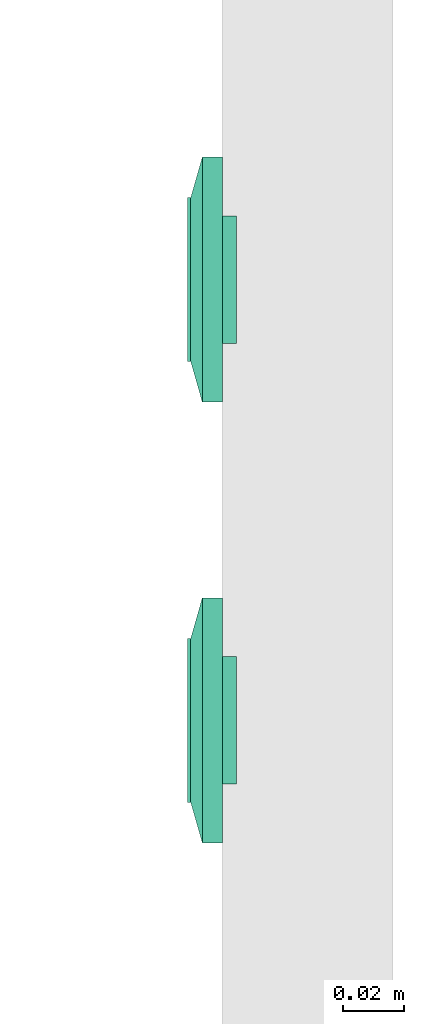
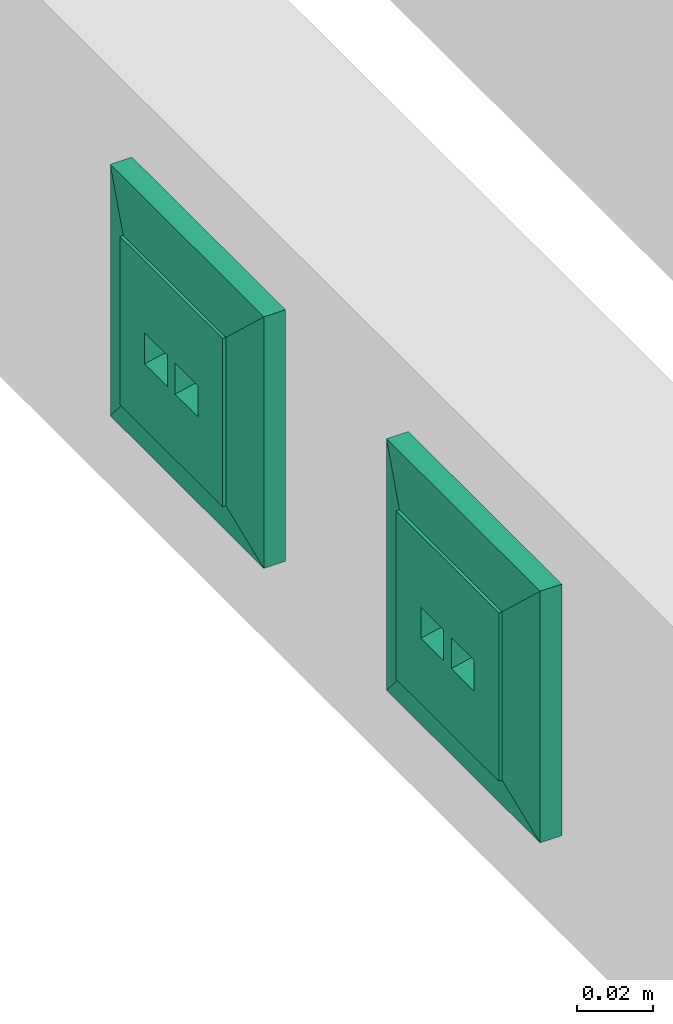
# One storey, part 88 of 166: 2 flow terminals.
"""IFC2X3 building model written with IfcOpenShell, lengths in metres."""

from ifc_helpers import new_model, entity, si_unit, converted_unit, derived_unit, direction, frame, origin, place, context, subcontext, project, spatial, faceted_brep, source, transform, mapped, type_object, type_shapes, element, save


model = new_model("IFC2X3")

# Units and contexts
model_context = context("Model", 3, precision=1e-05, world=origin(), true_north=direction((6.12303176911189e-17, 1.0)))
body_context = subcontext(model_context, "Body", "Model", "MODEL_VIEW")
ifc_project = project(units=[si_unit("LENGTHUNIT", "METRE"), si_unit("AREAUNIT", "SQUARE_METRE"), si_unit("VOLUMEUNIT", "CUBIC_METRE"), converted_unit("PLANEANGLEUNIT", "DEGREE", entity("IfcRatioMeasure", 0.0174532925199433), si_unit("PLANEANGLEUNIT", "RADIAN"), dimensions=[0, 0, 0, 0, 0, 0, 0]), si_unit("MASSUNIT", "GRAM", prefix="KILO"), derived_unit("MASSDENSITYUNIT", [(si_unit("MASSUNIT", "GRAM", prefix="KILO"), 1), (si_unit("LENGTHUNIT", "METRE"), -3)]), si_unit("TIMEUNIT", "SECOND"), si_unit("FREQUENCYUNIT", "HERTZ"), si_unit("THERMODYNAMICTEMPERATUREUNIT", "DEGREE_CELSIUS"), derived_unit("THERMALTRANSMITTANCEUNIT", [(si_unit("MASSUNIT", "GRAM", prefix="KILO"), 1), (si_unit("THERMODYNAMICTEMPERATUREUNIT", "KELVIN"), -1), (si_unit("TIMEUNIT", "SECOND"), -3)]), derived_unit("VOLUMETRICFLOWRATEUNIT", [(si_unit("LENGTHUNIT", "METRE"), 3), (si_unit("TIMEUNIT", "SECOND"), -1)]), si_unit("ELECTRICCURRENTUNIT", "AMPERE"), si_unit("ELECTRICVOLTAGEUNIT", "VOLT"), si_unit("POWERUNIT", "WATT"), si_unit("FORCEUNIT", "NEWTON"), si_unit("ILLUMINANCEUNIT", "LUX"), si_unit("LUMINOUSFLUXUNIT", "LUMEN"), si_unit("LUMINOUSINTENSITYUNIT", "CANDELA"), derived_unit("USERDEFINED", [(si_unit("MASSUNIT", "GRAM", prefix="KILO"), -1), (si_unit("LENGTHUNIT", "METRE"), -2), (si_unit("TIMEUNIT", "SECOND"), 3), (si_unit("LUMINOUSFLUXUNIT", "LUMEN"), 1)]), derived_unit("LINEARVELOCITYUNIT", [(si_unit("LENGTHUNIT", "METRE"), 1), (si_unit("TIMEUNIT", "SECOND"), -1)]), si_unit("PRESSUREUNIT", "PASCAL"), derived_unit("USERDEFINED", [(si_unit("LENGTHUNIT", "METRE"), -2), (si_unit("MASSUNIT", "GRAM", prefix="KILO"), 1), (si_unit("TIMEUNIT", "SECOND"), -2)])], contexts=[model_context])

# Site, building, storey
site_placement = place(None, origin())
site = spatial("IfcSite", under=ifc_project, at=site_placement, Name="Default", CompositionType="ELEMENT")
building_placement = place(site_placement, origin())
building = spatial("IfcBuilding", under=site, at=building_placement, CompositionType="ELEMENT")
storey_placement = place(building_placement, frame((0.0, 0.0, 4.27)))
storey = spatial("IfcBuildingStorey", under=building, at=storey_placement, Name="01", CompositionType="ELEMENT", Elevation=4.27)

# Flow terminals
electric_appliance_type = type_object("IfcElectricApplianceType", Name="RJ45 IP20", PredefinedType="NOTDEFINED")
shared_shape = source(origin(), body_context, "Body", "Brep", [
    faceted_brep([(0.00200000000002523, 0.0, 0.00799999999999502), (0.00400000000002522, 0.0, 0.00799999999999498), (0.00500000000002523, 0.00199999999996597, 0.00799999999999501), (0.0110000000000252, 0.00199999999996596, 0.00799999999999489), (0.0120000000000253, 0.0, 0.00799999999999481), (0.0140000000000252, 0.0, 0.00799999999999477), (0.0140000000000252, 0.00399999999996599, 0.00799999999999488), (0.00200000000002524, 0.00399999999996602, 0.00799999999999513), (0.00200000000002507, 0.0, 0.0), (0.00200000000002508, 0.00399999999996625, 0.0), (0.0140000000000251, 0.00399999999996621, 0.0), (0.0140000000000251, 0.0, 0.0), (0.0120000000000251, 0.0, 0.0), (0.0110000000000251, 0.00199999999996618, 0.0), (0.00500000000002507, 0.0019999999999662, 0.0), (0.00400000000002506, 0.0, 0.0)], [[[0, 1, 2, 3, 4, 5, 6, 7]], [[8, 9, 10, 11, 12, 13, 14, 15]], [[1, 0, 8, 15]], [[2, 1, 15, 14]], [[3, 2, 14, 13]], [[4, 3, 13, 12]], [[5, 4, 12, 11]], [[6, 5, 11, 10]], [[7, 6, 10, 9]], [[0, 7, 9, 8]]]),
    faceted_brep([(-0.0139999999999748, 0.0, 0.00799999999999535), (-0.0119999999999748, 0.0, 0.00799999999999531), (-0.0109999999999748, 0.00199999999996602, 0.00799999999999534), (-0.00499999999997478, 0.00199999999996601, 0.00799999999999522), (-0.0039999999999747, 0.0, 0.00799999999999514), (-0.00199999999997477, 0.0, 0.0079999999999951), (-0.00199999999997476, 0.00399999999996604, 0.00799999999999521), (-0.0139999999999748, 0.00399999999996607, 0.00799999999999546), (-0.0139999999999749, 0.0, 0.0), (-0.0139999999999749, 0.00399999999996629, 0.0), (-0.00199999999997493, 0.00399999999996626, 0.0), (-0.00199999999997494, 0.0, 0.0), (-0.00399999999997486, 0.0, 0.0), (-0.00499999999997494, 0.00199999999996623, 0.0), (-0.0109999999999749, 0.00199999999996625, 0.0), (-0.0119999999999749, 0.0, 0.0)], [[[0, 1, 2, 3, 4, 5, 6, 7]], [[8, 9, 10, 11, 12, 13, 14, 15]], [[1, 0, 8, 15]], [[2, 1, 15, 14]], [[3, 2, 14, 13]], [[4, 3, 13, 12]], [[5, 4, 12, 11]], [[6, 5, 11, 10]], [[7, 6, 10, 9]], [[0, 7, 9, 8]]]),
    faceted_brep([(0.0140000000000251, 0.00399999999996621, 0.0), (0.00200000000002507, 0.00399999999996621, 0.0), (0.00200000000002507, -0.00350000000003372, 0.0), (0.0140000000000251, -0.00350000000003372, 0.0), (0.0140000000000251, 0.00399999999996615, 0.00199999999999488), (0.00200000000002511, 0.00399999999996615, 0.00199999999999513), (0.00200000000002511, -0.00393859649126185, 0.00199999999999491), (0.0140000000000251, -0.00393859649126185, 0.00199999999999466), (0.0210000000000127, 0.0209999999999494, 0.00199999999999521), (-0.0209999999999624, 0.0209999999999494, 0.00199999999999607), (-0.0209999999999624, -0.0210000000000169, 0.00199999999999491), (0.0210000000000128, -0.0210000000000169, 0.00199999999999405), (-0.0139999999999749, 0.0039999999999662, 0.00199999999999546), (-0.0019999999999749, 0.0039999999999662, 0.00199999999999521), (-0.00199999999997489, -0.0039385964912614, 0.00199999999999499), (-0.0139999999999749, -0.00393859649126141, 0.00199999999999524), (0.0210000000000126, 0.0209999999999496, -0.00460000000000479), (0.0210000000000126, -0.0210000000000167, -0.00460000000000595), (-0.0209999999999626, -0.0210000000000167, -0.00460000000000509), (-0.0209999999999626, 0.0209999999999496, -0.00460000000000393), (-0.00199999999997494, 0.00399999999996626, 0.0), (-0.0139999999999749, 0.00399999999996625, 0.0), (-0.0139999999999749, -0.00350000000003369, 0.0), (-0.00199999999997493, -0.00350000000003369, 0.0)], [[[0, 1, 2, 3]], [[1, 0, 4, 5]], [[2, 1, 5, 6]], [[3, 2, 6, 7]], [[0, 3, 7, 4]], [[5, 4, 7, 6], [8, 9, 10, 11], [12, 13, 14, 15]], [[16, 17, 18, 19]], [[9, 8, 16, 19]], [[10, 9, 19, 18]], [[11, 10, 18, 17]], [[8, 11, 17, 16]], [[20, 21, 22, 23]], [[21, 20, 13, 12]], [[22, 21, 12, 15]], [[23, 22, 15, 14]], [[20, 23, 14, 13]]], outer=[[True], [True], [True], [True], [True], [False, True, False], [True], [True], [True], [True], [True], [True], [True], [True], [True], [True]]),
    faceted_brep([(0.0270000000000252, 0.026999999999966, 0.0113999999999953), (-0.0269999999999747, 0.026999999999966, 0.0113999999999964), (-0.0269999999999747, -0.0270000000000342, 0.0113999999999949), (0.0270000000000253, -0.0270000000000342, 0.0113999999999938), (0.0020000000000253, 0.00399999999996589, 0.0113999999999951), (0.0140000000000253, 0.00399999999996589, 0.0113999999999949), (0.0140000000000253, -0.00600000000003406, 0.0113999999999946), (0.0020000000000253, -0.00600000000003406, 0.0113999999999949), (-0.0139999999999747, 0.00399999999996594, 0.0113999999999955), (-0.00199999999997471, 0.00399999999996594, 0.0113999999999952), (-0.00199999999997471, -0.0060000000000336, 0.0113999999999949), (-0.0139999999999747, -0.00600000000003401, 0.0113999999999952), (0.0270000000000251, 0.0269999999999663, 0.00199999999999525), (0.0270000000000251, -0.0270000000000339, 0.00199999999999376), (-0.0269999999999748, -0.0270000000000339, 0.00199999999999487), (-0.0269999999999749, 0.0269999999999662, 0.00199999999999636), (0.0140000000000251, 0.00399999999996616, 0.00199999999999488), (0.00200000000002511, 0.00399999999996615, 0.00199999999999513), (0.00200000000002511, -0.00393859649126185, 0.00199999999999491), (0.0140000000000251, -0.00393859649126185, 0.00199999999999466), (-0.00199999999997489, 0.0039999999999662, 0.00199999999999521), (-0.0139999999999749, 0.0039999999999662, 0.00199999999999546), (-0.0139999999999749, -0.0039385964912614, 0.00199999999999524), (-0.00199999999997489, -0.0039385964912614, 0.00199999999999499)], [[[0, 1, 2, 3], [4, 5, 6, 7], [8, 9, 10, 11]], [[12, 13, 14, 15], [16, 17, 18, 19], [20, 21, 22, 23]], [[1, 0, 12, 15]], [[2, 1, 15, 14]], [[3, 2, 14, 13]], [[0, 3, 13, 12]], [[4, 17, 16, 5]], [[17, 4, 7, 18]], [[18, 7, 6, 19]], [[5, 16, 19, 6]], [[8, 21, 20, 9]], [[21, 8, 11, 22]], [[22, 11, 10, 23]], [[9, 20, 23, 10]]]),
    faceted_brep([(0.027000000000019, 0.0269999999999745, 0.00659999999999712), (-0.0269999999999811, 0.0269999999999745, 0.00659999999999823), (-0.026999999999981, -0.0270000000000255, 0.00659999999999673), (0.027000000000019, -0.0270000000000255, 0.00659999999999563), (0.040350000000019, 0.0403499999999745, 0.00659999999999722), (0.040350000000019, -0.0403500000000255, 0.00659999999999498), (-0.0403499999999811, -0.0403500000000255, 0.00659999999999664), (-0.0403499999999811, 0.0403499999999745, 0.00659999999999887), (-0.026999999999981, 0.0269999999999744, 0.0103999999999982), (0.027000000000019, 0.0269999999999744, 0.0103999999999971), (-0.026999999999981, -0.0270000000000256, 0.0103999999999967), (0.027000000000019, -0.0270000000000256, 0.0103999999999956)], [[[0, 1, 2, 3], [4, 5, 6, 7]], [[4, 7, 8, 9]], [[7, 6, 10, 8]], [[6, 5, 11, 10]], [[5, 4, 9, 11]], [[0, 9, 8, 1]], [[1, 8, 10, 2]], [[2, 10, 11, 3]], [[9, 0, 3, 11]]], outer=[[False, True], [True], [True], [True], [True], [True], [True], [True], [True]]),
    faceted_brep([(0.040350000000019, 0.0403499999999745, 0.00659999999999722), (-0.0403499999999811, 0.0403499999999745, 0.00659999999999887), (-0.0403499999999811, -0.0403500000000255, 0.00659999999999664), (0.040350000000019, -0.0403500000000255, 0.00659999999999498), (-0.0269999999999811, 0.0269999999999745, 0.00659999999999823), (0.0270000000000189, 0.0269999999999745, 0.00659999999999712), (0.0270000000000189, -0.0270000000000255, 0.00659999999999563), (-0.0269999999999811, -0.0270000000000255, 0.00659999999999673), (0.0403500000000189, 0.0403499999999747, 0.0), (0.0403500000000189, -0.0403500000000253, 0.0), (-0.0403499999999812, -0.0403500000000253, 0.0), (-0.0403499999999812, 0.0403499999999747, 0.0), (0.0270000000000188, 0.0269999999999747, 0.0), (-0.0269999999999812, 0.0269999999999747, 0.0), (-0.0269999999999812, -0.0270000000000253, 0.0), (0.0270000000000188, -0.0270000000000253, 0.0)], [[[0, 1, 2, 3], [4, 5, 6, 7]], [[8, 9, 10, 11], [12, 13, 14, 15]], [[1, 0, 8, 11]], [[2, 1, 11, 10]], [[3, 2, 10, 9]], [[0, 3, 9, 8]], [[12, 5, 4, 13]], [[13, 4, 7, 14]], [[14, 7, 6, 15]], [[5, 12, 15, 6]]]),
])
type_shapes(electric_appliance_type, [shared_shape])
for number, where, z_axis, x_axis in (
    (1, (53.3787436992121, -191.620829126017, 0.438000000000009), (-1.0, 0.0, 0.0), (0.0, -1.0, 0.0)),
    (2, (53.3787436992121, -191.475670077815, 0.438000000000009), (-1.0, 0.0, 0.0), (0.0, -1.0, 0.0)),
):
    element("IfcFlowTerminal", number, at=place(storey_placement, frame(where, z_axis=z_axis, x_axis=x_axis)), inside=storey, type_object=electric_appliance_type, Name="INT_Prise RJ45:RJ45 IP20", ObjectType="INT_Prise RJ45:RJ45 IP20", context=body_context, shape_type="MappedRepresentation", body=[
        mapped(shared_shape, transform((0.0, 0.0, 0.0), scale=1.0)),
    ])

save(model, "model.ifc")
